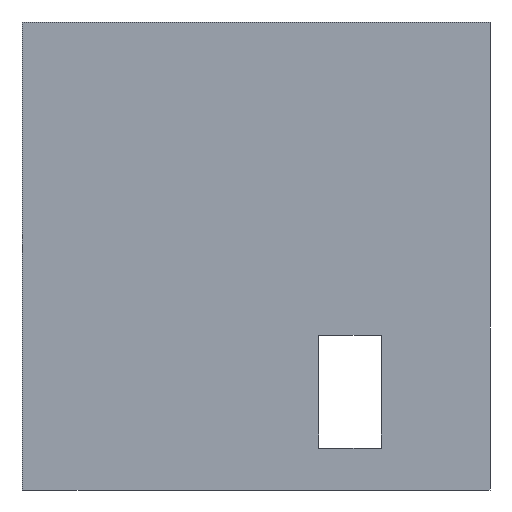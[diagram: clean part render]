
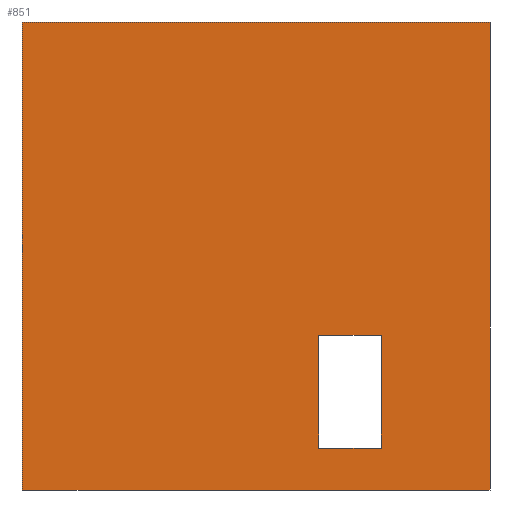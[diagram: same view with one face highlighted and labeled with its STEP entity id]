
A CAD part, left-side view. The second image highlights one B-rep face of the part: STEP entity #851.
In plain terms, the highlighted planar face has unit normal (-1, 0, 0).
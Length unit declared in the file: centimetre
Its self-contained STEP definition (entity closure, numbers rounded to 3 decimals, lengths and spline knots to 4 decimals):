
#3 = CARTESIAN_POINT ( 'NONE',  ( 0., 366.3264, 330.1868 ) ) ;
#8 = VECTOR ( 'NONE', #78, 100. ) ;
#18 = VERTEX_POINT ( 'NONE', #695 ) ;
#53 = VERTEX_POINT ( 'NONE', #1129 ) ;
#72 = VECTOR ( 'NONE', #607, 100. ) ;
#78 = DIRECTION ( 'NONE',  ( 0., 0., 1. ) ) ;
#83 = EDGE_CURVE ( 'NONE', #430, #1032, #909, .T. ) ;
#86 = LINE ( 'NONE', #1198, #1152 ) ;
#88 = VECTOR ( 'NONE', #433, 100. ) ;
#125 = VERTEX_POINT ( 'NONE', #1137 ) ;
#147 = DIRECTION ( 'NONE',  ( 0., 0., -1. ) ) ;
#163 = AXIS2_PLACEMENT_3D ( 'NONE', #1168, #453, #249 ) ;
#164 = EDGE_LOOP ( 'NONE', ( #465, #471, #497, #950 ) ) ;
#177 = DIRECTION ( 'NONE',  ( 0., 1., 0. ) ) ;
#223 = CARTESIAN_POINT ( 'NONE',  ( 0., 232.1736, 89.5836 ) ) ;
#241 = FACE_OUTER_BOUND ( 'NONE', #742, .T. ) ;
#245 = EDGE_CURVE ( 'NONE', #18, #871, #1248, .T. ) ;
#249 = DIRECTION ( 'NONE',  ( 0., 0., -1. ) ) ;
#334 = VECTOR ( 'NONE', #830, 100. ) ;
#351 = VECTOR ( 'NONE', #147, 100. ) ;
#377 = VECTOR ( 'NONE', #746, 100. ) ;
#430 = VERTEX_POINT ( 'NONE', #1329 ) ;
#433 = DIRECTION ( 'NONE',  ( 0., 0., -1. ) ) ;
#453 = DIRECTION ( 'NONE',  ( 1., 0., 0. ) ) ;
#464 = EDGE_CURVE ( 'NONE', #871, #430, #698, .T. ) ;
#465 = ORIENTED_EDGE ( 'NONE', *, *, #245, .T. ) ;
#471 = ORIENTED_EDGE ( 'NONE', *, *, #464, .T. ) ;
#480 = ORIENTED_EDGE ( 'NONE', *, *, #672, .T. ) ;
#490 = DIRECTION ( 'NONE',  ( 0., -1., 0. ) ) ;
#497 = ORIENTED_EDGE ( 'NONE', *, *, #83, .T. ) ;
#534 = CARTESIAN_POINT ( 'NONE',  ( 0., 1000., 0. ) ) ;
#543 = ORIENTED_EDGE ( 'NONE', *, *, #972, .T. ) ;
#607 = DIRECTION ( 'NONE',  ( 0., -1., 0. ) ) ;
#636 = CARTESIAN_POINT ( 'NONE',  ( 0., 0., 1000. ) ) ;
#660 = CARTESIAN_POINT ( 'NONE',  ( 0., 0., 1000. ) ) ;
#672 = EDGE_CURVE ( 'NONE', #125, #1071, #842, .T. ) ;
#695 = CARTESIAN_POINT ( 'NONE',  ( 0., 232.1736, 330.1868 ) ) ;
#698 = LINE ( 'NONE', #798, #1170 ) ;
#717 = ORIENTED_EDGE ( 'NONE', *, *, #1133, .F. ) ;
#742 = EDGE_LOOP ( 'NONE', ( #543, #1201, #717, #480 ) ) ;
#746 = DIRECTION ( 'NONE',  ( 0., 0., -1. ) ) ;
#752 = EDGE_CURVE ( 'NONE', #1057, #53, #778, .T. ) ;
#760 = PLANE ( 'NONE',  #163 ) ;
#778 = LINE ( 'NONE', #660, #351 ) ;
#798 = CARTESIAN_POINT ( 'NONE',  ( 0., 232.1736, 89.5836 ) ) ;
#830 = DIRECTION ( 'NONE',  ( 0., -1., 0. ) ) ;
#842 = LINE ( 'NONE', #1258, #377 ) ;
#851 = ADVANCED_FACE ( 'NONE', ( #1074, #241 ), #760, .F. ) ;
#871 = VERTEX_POINT ( 'NONE', #877 ) ;
#877 = CARTESIAN_POINT ( 'NONE',  ( 0., 232.1736, 89.5836 ) ) ;
#909 = LINE ( 'NONE', #1337, #8 ) ;
#923 = LINE ( 'NONE', #1202, #72 ) ;
#950 = ORIENTED_EDGE ( 'NONE', *, *, #1303, .T. ) ;
#972 = EDGE_CURVE ( 'NONE', #1071, #53, #86, .T. ) ;
#1032 = VERTEX_POINT ( 'NONE', #3 ) ;
#1057 = VERTEX_POINT ( 'NONE', #636 ) ;
#1071 = VERTEX_POINT ( 'NONE', #534 ) ;
#1074 = FACE_BOUND ( 'NONE', #164, .T. ) ;
#1129 = CARTESIAN_POINT ( 'NONE',  ( 0., 0., 0. ) ) ;
#1133 = EDGE_CURVE ( 'NONE', #125, #1057, #1340, .T. ) ;
#1134 = CARTESIAN_POINT ( 'NONE',  ( 0., 1000., 1000. ) ) ;
#1137 = CARTESIAN_POINT ( 'NONE',  ( 0., 1000., 1000. ) ) ;
#1152 = VECTOR ( 'NONE', #490, 100. ) ;
#1168 = CARTESIAN_POINT ( 'NONE',  ( 0., 1000., 1000. ) ) ;
#1170 = VECTOR ( 'NONE', #177, 100. ) ;
#1198 = CARTESIAN_POINT ( 'NONE',  ( 0., 1000., 0. ) ) ;
#1201 = ORIENTED_EDGE ( 'NONE', *, *, #752, .F. ) ;
#1202 = CARTESIAN_POINT ( 'NONE',  ( 0., 232.1736, 330.1868 ) ) ;
#1248 = LINE ( 'NONE', #223, #88 ) ;
#1258 = CARTESIAN_POINT ( 'NONE',  ( 0., 1000., 1000. ) ) ;
#1303 = EDGE_CURVE ( 'NONE', #1032, #18, #923, .T. ) ;
#1329 = CARTESIAN_POINT ( 'NONE',  ( 0., 366.3264, 89.5836 ) ) ;
#1337 = CARTESIAN_POINT ( 'NONE',  ( 0., 366.3264, 89.5836 ) ) ;
#1340 = LINE ( 'NONE', #1134, #334 ) ;
